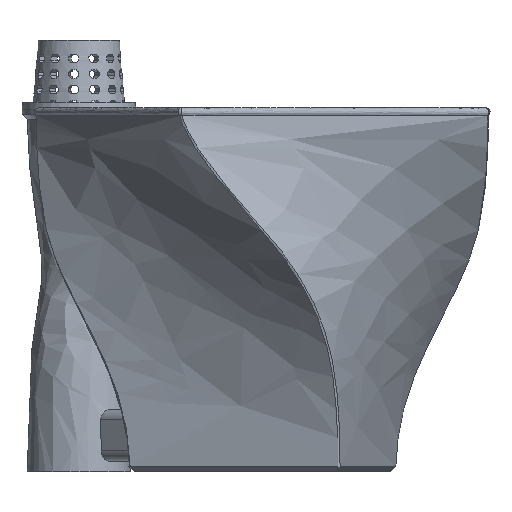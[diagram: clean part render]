
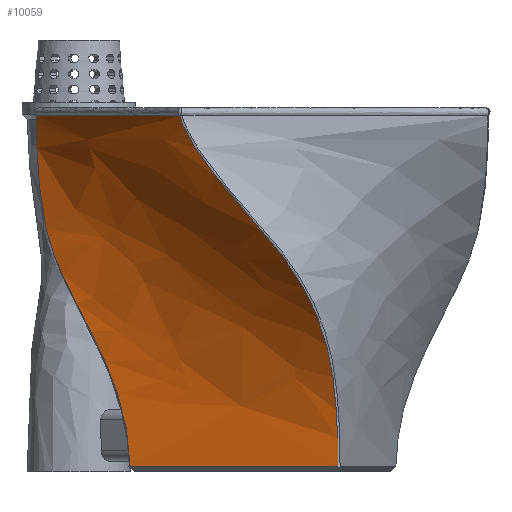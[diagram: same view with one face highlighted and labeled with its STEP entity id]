
A CAD part, front view. The second image highlights one B-rep face of the part: STEP entity #10059.
In plain terms, the highlighted free-form (B-spline) face has degree [3, 3] with [4, 6] control points.
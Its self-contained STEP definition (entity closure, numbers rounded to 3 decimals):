
#810=B_SPLINE_SURFACE_WITH_KNOTS('',3,3,((#19519,#19520,#19521,#19522,#19523,
#19524),(#19525,#19526,#19527,#19528,#19529,#19530),(#19531,#19532,#19533,
#19534,#19535,#19536),(#19537,#19538,#19539,#19540,#19541,#19542)),
 .UNSPECIFIED.,.F.,.F.,.F.,(4,4),(4,2,4),(0.005,0.995),
(0.01,0.651,0.976),.UNSPECIFIED.);
#1733=FACE_OUTER_BOUND('',#2326,.T.);
#2326=EDGE_LOOP('',(#9333,#9334,#9335,#9336,#9337,#9338,#9339,#9340));
#3815=B_SPLINE_CURVE_WITH_KNOTS('',3,(#19182,#19183,#19184,#19185),
 .UNSPECIFIED.,.F.,.F.,(4,4),(-0.109,-0.089),
 .UNSPECIFIED.);
#3827=B_SPLINE_CURVE_WITH_KNOTS('',3,(#19374,#19375,#19376,#19377,#19378,
#19379,#19380,#19381,#19382,#19383),.UNSPECIFIED.,.F.,.F.,(4,3,3,4),(-9.896,
-6.81,-4.981,-0.031),.UNSPECIFIED.);
#3839=B_SPLINE_CURVE_WITH_KNOTS('',3,(#19544,#19545,#19546,#19547,#19548,
#19549,#19550,#19551),.UNSPECIFIED.,.F.,.F.,(4,2,1,1,4),(0.651,
0.652,0.846,0.91,0.974),
 .UNSPECIFIED.);
#3840=B_SPLINE_CURVE_WITH_KNOTS('',3,(#19553,#19554,#19555,#19556,#19557,
#19558,#19559,#19560),.UNSPECIFIED.,.F.,.F.,(4,1,1,2,4),(0.01,
0.393,0.521,0.648,0.651),
 .UNSPECIFIED.);
#3841=B_SPLINE_CURVE_WITH_KNOTS('',3,(#19562,#19563,#19564,#19565),
 .UNSPECIFIED.,.F.,.F.,(4,4),(-6.286,-0.049),
 .UNSPECIFIED.);
#3842=B_SPLINE_CURVE_WITH_KNOTS('',3,(#19567,#19568,#19569,#19570),
 .UNSPECIFIED.,.F.,.F.,(4,4),(-0.234,-0.234),
 .UNSPECIFIED.);
#3843=B_SPLINE_CURVE_WITH_KNOTS('',3,(#19572,#19573,#19574,#19575,#19576,
#19577,#19578,#19579),.UNSPECIFIED.,.F.,.F.,(4,2,1,1,4),(-0.651,
-0.648,-0.521,-0.393,-0.01),
 .UNSPECIFIED.);
#3844=B_SPLINE_CURVE_WITH_KNOTS('',3,(#19580,#19581,#19582,#19583,#19584,
#19585,#19586,#19587),.UNSPECIFIED.,.F.,.F.,(4,1,1,2,4),(-0.974,
-0.846,-0.781,-0.652,-0.651),
 .UNSPECIFIED.);
#4865=VERTEX_POINT('',#19180);
#4866=VERTEX_POINT('',#19181);
#4887=VERTEX_POINT('',#19373);
#4901=VERTEX_POINT('',#19543);
#4902=VERTEX_POINT('',#19552);
#4903=VERTEX_POINT('',#19561);
#4904=VERTEX_POINT('',#19566);
#4905=VERTEX_POINT('',#19571);
#6362=EDGE_CURVE('',#4865,#4866,#3815,.T.);
#6387=EDGE_CURVE('',#4866,#4887,#3827,.T.);
#6406=EDGE_CURVE('',#4901,#4887,#3839,.T.);
#6407=EDGE_CURVE('',#4902,#4901,#3840,.T.);
#6408=EDGE_CURVE('',#4903,#4902,#3841,.T.);
#6409=EDGE_CURVE('',#4904,#4903,#3842,.T.);
#6410=EDGE_CURVE('',#4905,#4904,#3843,.T.);
#6411=EDGE_CURVE('',#4865,#4905,#3844,.T.);
#9333=ORIENTED_EDGE('',*,*,#6362,.T.);
#9334=ORIENTED_EDGE('',*,*,#6387,.T.);
#9335=ORIENTED_EDGE('',*,*,#6406,.F.);
#9336=ORIENTED_EDGE('',*,*,#6407,.F.);
#9337=ORIENTED_EDGE('',*,*,#6408,.F.);
#9338=ORIENTED_EDGE('',*,*,#6409,.F.);
#9339=ORIENTED_EDGE('',*,*,#6410,.F.);
#9340=ORIENTED_EDGE('',*,*,#6411,.F.);
#10059=ADVANCED_FACE('',(#1733),#810,.T.);
#19180=CARTESIAN_POINT('',(-24.85,-64.41,103.186));
#19181=CARTESIAN_POINT('',(-24.908,-64.241,103.091));
#19182=CARTESIAN_POINT('Ctrl Pts',(-24.85,-64.41,
103.186));
#19183=CARTESIAN_POINT('Ctrl Pts',(-24.867,-64.356,
103.15));
#19184=CARTESIAN_POINT('Ctrl Pts',(-24.887,-64.299,
103.118));
#19185=CARTESIAN_POINT('Ctrl Pts',(-24.908,-64.241,
103.091));
#19373=CARTESIAN_POINT('',(-66.474,24.206,103.332));
#19374=CARTESIAN_POINT('Ctrl Pts',(-24.908,-64.241,
103.091));
#19375=CARTESIAN_POINT('Ctrl Pts',(-29.258,-55.001,
103.113));
#19376=CARTESIAN_POINT('Ctrl Pts',(-33.558,-45.863,
103.136));
#19377=CARTESIAN_POINT('Ctrl Pts',(-37.875,-36.683,
103.16));
#19378=CARTESIAN_POINT('Ctrl Pts',(-40.433,-31.243,
103.174));
#19379=CARTESIAN_POINT('Ctrl Pts',(-42.998,-25.788,103.189));
#19380=CARTESIAN_POINT('Ctrl Pts',(-45.582,-20.289,103.205));
#19381=CARTESIAN_POINT('Ctrl Pts',(-52.576,-5.407,
103.246));
#19382=CARTESIAN_POINT('Ctrl Pts',(-59.469,9.273,103.289));
#19383=CARTESIAN_POINT('Ctrl Pts',(-66.474,24.206,103.332));
#19519=CARTESIAN_POINT('Ctrl Pts',(-39.408,-21.57,
1.35));
#19520=CARTESIAN_POINT('Ctrl Pts',(-39.959,-21.5,
30.765));
#19521=CARTESIAN_POINT('Ctrl Pts',(-58.371,-18.998,
48.134));
#19522=CARTESIAN_POINT('Ctrl Pts',(-66.231,10.51,81.077));
#19523=CARTESIAN_POINT('Ctrl Pts',(-66.456,22.574,95.408));
#19524=CARTESIAN_POINT('Ctrl Pts',(-66.474,24.206,103.332));
#19525=CARTESIAN_POINT('Ctrl Pts',(-19.214,-26.985,
1.35));
#19526=CARTESIAN_POINT('Ctrl Pts',(-19.606,-27.121,
30.765));
#19527=CARTESIAN_POINT('Ctrl Pts',(-32.778,-31.582,
48.134));
#19528=CARTESIAN_POINT('Ctrl Pts',(-47.882,-14.429,
81.077));
#19529=CARTESIAN_POINT('Ctrl Pts',(-52.053,-6.42,
95.408));
#19530=CARTESIAN_POINT('Ctrl Pts',(-52.61,-5.333,
103.332));
#19531=CARTESIAN_POINT('Ctrl Pts',(0.98,-32.4,
1.35));
#19532=CARTESIAN_POINT('Ctrl Pts',(0.746,-32.743,
30.765));
#19533=CARTESIAN_POINT('Ctrl Pts',(-7.185,-44.167,
48.134));
#19534=CARTESIAN_POINT('Ctrl Pts',(-29.532,-39.369,81.077));
#19535=CARTESIAN_POINT('Ctrl Pts',(-37.651,-35.414,
95.408));
#19536=CARTESIAN_POINT('Ctrl Pts',(-38.745,-34.872,
103.332));
#19537=CARTESIAN_POINT('Ctrl Pts',(21.175,-37.814,1.35));
#19538=CARTESIAN_POINT('Ctrl Pts',(21.099,-38.364,30.765));
#19539=CARTESIAN_POINT('Ctrl Pts',(18.408,-56.751,48.134));
#19540=CARTESIAN_POINT('Ctrl Pts',(-11.182,-64.308,
81.077));
#19541=CARTESIAN_POINT('Ctrl Pts',(-23.248,-64.409,
95.408));
#19542=CARTESIAN_POINT('Ctrl Pts',(-24.881,-64.411,
103.332));
#19543=CARTESIAN_POINT('',(-63.539,0.714,70.267));
#19544=CARTESIAN_POINT('Ctrl Pts',(-63.539,0.714,70.267));
#19545=CARTESIAN_POINT('Ctrl Pts',(-63.55,0.754,
70.312));
#19546=CARTESIAN_POINT('Ctrl Pts',(-63.561,0.795,
70.356));
#19547=CARTESIAN_POINT('Ctrl Pts',(-65.129,6.741,77.));
#19548=CARTESIAN_POINT('Ctrl Pts',(-66.083,15.61,87.342));
#19549=CARTESIAN_POINT('Ctrl Pts',(-66.427,22.418,98.205));
#19550=CARTESIAN_POINT('Ctrl Pts',(-66.465,23.881,101.813));
#19551=CARTESIAN_POINT('Ctrl Pts',(-66.474,24.206,103.332));
#19552=CARTESIAN_POINT('',(-39.24,-21.615,1.35));
#19553=CARTESIAN_POINT('Ctrl Pts',(-39.24,-21.615,
1.35));
#19554=CARTESIAN_POINT('Ctrl Pts',(-39.571,-21.573,
19.054));
#19555=CARTESIAN_POINT('Ctrl Pts',(-48.647,-20.353,
36.897));
#19556=CARTESIAN_POINT('Ctrl Pts',(-59.289,-9.842,57.322));
#19557=CARTESIAN_POINT('Ctrl Pts',(-62.428,-3.412,
65.658));
#19558=CARTESIAN_POINT('Ctrl Pts',(-63.497,0.555,
70.089));
#19559=CARTESIAN_POINT('Ctrl Pts',(-63.518,0.635,
70.178));
#19560=CARTESIAN_POINT('Ctrl Pts',(-63.539,0.714,70.267));
#19561=CARTESIAN_POINT('',(21.003,-37.768,1.35));
#19562=CARTESIAN_POINT('Ctrl Pts',(21.003,-37.768,1.35));
#19563=CARTESIAN_POINT('Ctrl Pts',(0.922,-32.384,
1.35));
#19564=CARTESIAN_POINT('Ctrl Pts',(-19.159,-26.999,1.35));
#19565=CARTESIAN_POINT('Ctrl Pts',(-39.24,-21.615,
1.35));
#19566=CARTESIAN_POINT('',(21.003,-37.768,1.35));
#19567=CARTESIAN_POINT('Ctrl Pts',(21.003,-37.768,1.35));
#19568=CARTESIAN_POINT('Ctrl Pts',(21.003,-37.768,1.35));
#19569=CARTESIAN_POINT('Ctrl Pts',(21.003,-37.768,1.35));
#19570=CARTESIAN_POINT('Ctrl Pts',(21.003,-37.768,1.35));
#19571=CARTESIAN_POINT('',(-1.169,-61.679,69.865));
#19572=CARTESIAN_POINT('Ctrl Pts',(-1.169,-61.679,
69.865));
#19573=CARTESIAN_POINT('Ctrl Pts',(-1.089,-61.659,
69.776));
#19574=CARTESIAN_POINT('Ctrl Pts',(-1.01,-61.638,
69.688));
#19575=CARTESIAN_POINT('Ctrl Pts',(2.928,-60.592,65.265));
#19576=CARTESIAN_POINT('Ctrl Pts',(9.302,-57.501,56.956));
#19577=CARTESIAN_POINT('Ctrl Pts',(19.699,-47.019,36.619));
#19578=CARTESIAN_POINT('Ctrl Pts',(20.959,-38.097,18.942));
#19579=CARTESIAN_POINT('Ctrl Pts',(21.003,-37.768,1.35));
#19580=CARTESIAN_POINT('Ctrl Pts',(-24.85,-64.41,
103.186));
#19581=CARTESIAN_POINT('Ctrl Pts',(-24.145,-64.403,
99.967));
#19582=CARTESIAN_POINT('Ctrl Pts',(-20.645,-64.359,
93.715));
#19583=CARTESIAN_POINT('Ctrl Pts',(-11.656,-63.669,
81.777));
#19584=CARTESIAN_POINT('Ctrl Pts',(-5.236,-62.722,
74.403));
#19585=CARTESIAN_POINT('Ctrl Pts',(-1.249,-61.7,
69.955));
#19586=CARTESIAN_POINT('Ctrl Pts',(-1.209,-61.69,
69.91));
#19587=CARTESIAN_POINT('Ctrl Pts',(-1.169,-61.679,
69.865));
